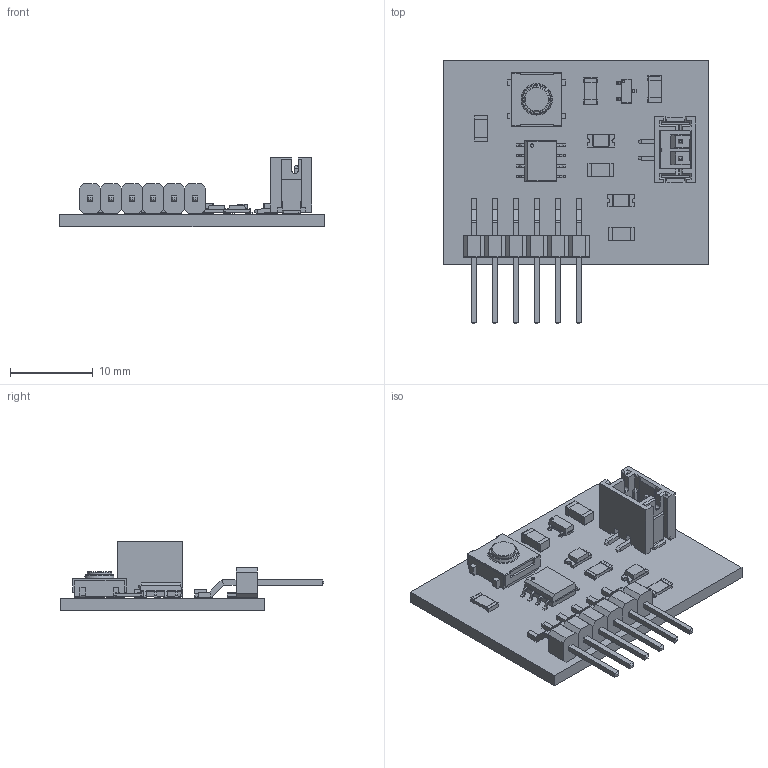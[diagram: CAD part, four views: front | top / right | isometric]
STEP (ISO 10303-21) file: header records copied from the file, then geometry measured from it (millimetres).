
FILE_DESCRIPTION(('KiCad electronic assembly'),'2;1');
FILE_NAME('Demo.step','2025-03-05T13:37:15',('Pcbnew'),('Kicad'), 'Open CASCADE STEP processor 7.8','KiCad to STEP converter','Unknown' );
FILE_SCHEMA(('AUTOMOTIVE_DESIGN { 1 0 10303 214 1 1 1 1 }'));
Length unit declared in the file: millimetre
Products named in the file (36): Demo 1; Switch_Omron-B3SN-3112P; Base; Leads; Lead; Body002; Body003; Body004; Button; Cover; LED-1206; Emmiter; Contact_1; Contact_2; Resistor-1206; Ceramic; Contacts; Contacts (Mirror #1); Overcoat; SOIC-8_3.9x4.9mm_P1.27mm; Leads_Right; Package; Dot; Capacitor-1206; Body; Contact; ContactClone; Demo 1.7; Header_SMD_01x06_P2.54mm_Horizontal_Male; Demo 1.9.1; Demo 1.9.2; B2B-PH-SM4-TB; B2B-PH-SM4-TB_B2B-PH-SM4-TB; Demo_PCB
Assembly tree (42 placements, depth 4):
  Demo 1
    Switch_Omron-B3SN-3112P
      Base
      Leads
        Lead
        Body002
        Body003
        Body004
      Button
      Cover
    LED-1206  x2
      Base
      Emmiter
      Contact_1
      Contact_2
    Resistor-1206  x3
      Ceramic
      Contacts
      Contacts (Mirror #1)
      Overcoat
    SOIC-8_3.9x4.9mm_P1.27mm
      Leads
        Leads_Right  x4
      Package
      Dot
    Capacitor-1206  x2
      Body
      Contact
      ContactClone
    Demo 1.7
    Header_SMD_01x06_P2.54mm_Horizontal_Male
      Demo 1.9.1
      Demo 1.9.2
    B2B-PH-SM4-TB
      B2B-PH-SM4-TB_B2B-PH-SM4-TB
    Demo_PCB
Bounding box: 32 x 31.88 x 8.35 mm (x, y, z)
Volume: 1673.7 mm3; surface area: 3382.9 mm2
Topology: 62 solids, 62 shells, 936 faces, 2205 edges, 1389 vertices
Faces by surface type: plane 836, cylinder 84, revolution 12, torus 3, cone 1
Full cylindrical faces by diameter (mm): 0.4 x2, 3 x2
Entity records: 21498 total; most frequent: CARTESIAN_POINT 3565, ORIENTED_EDGE 3426, DIRECTION 3403, EDGE_CURVE 1713, LINE 1585, VECTOR 1585, VERTEX_POINT 1065, AXIS2_PLACEMENT_3D 903
